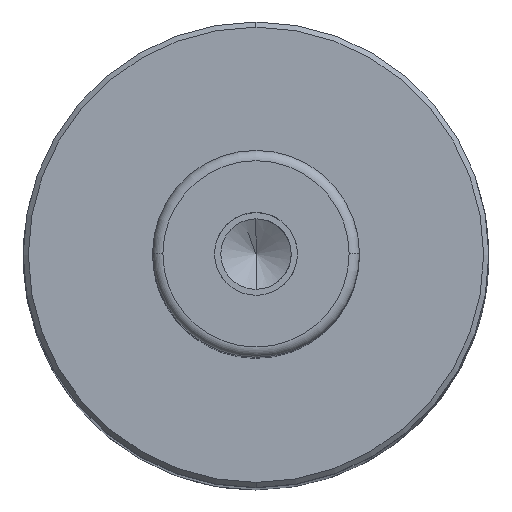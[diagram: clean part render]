
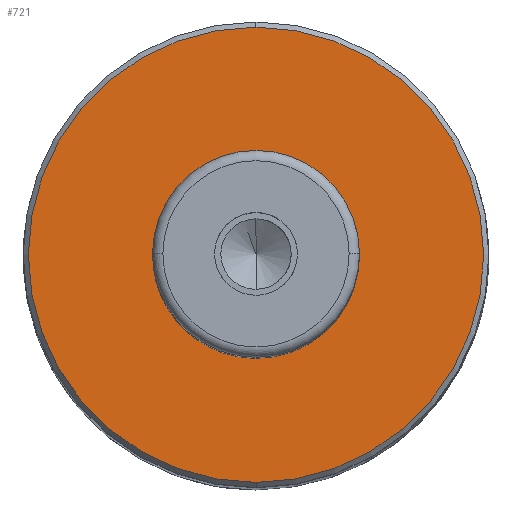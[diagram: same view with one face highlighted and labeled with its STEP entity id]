
A CAD part, top view. The second image highlights one B-rep face of the part: STEP entity #721.
In plain terms, the highlighted planar face has unit normal (0, 0, 1).
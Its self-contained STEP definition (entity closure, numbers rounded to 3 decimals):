
#400=CARTESIAN_POINT('Vertex',(0.,22.,133.)) ;
#407=CARTESIAN_POINT('Vertex',(0.,-22.,133.)) ;
#410=CARTESIAN_POINT('Axis2P3D Location',(0.,0.,133.)) ;
#427=CARTESIAN_POINT('Axis2P3D Location',(0.,0.,133.)) ;
#652=CARTESIAN_POINT('Axis2P3D Location',(0.,16.,133.)) ;
#662=CARTESIAN_POINT('Control Point',(0.,10.,133.)) ;
#663=CARTESIAN_POINT('Control Point',(-0.93,10.,133.)) ;
#664=CARTESIAN_POINT('Control Point',(-1.859,9.892,133.)) ;
#665=CARTESIAN_POINT('Control Point',(-2.772,9.676,133.)) ;
#666=CARTESIAN_POINT('Control Point',(-4.53,9.036,133.)) ;
#667=CARTESIAN_POINT('Control Point',(-6.095,8.01,133.)) ;
#668=CARTESIAN_POINT('Control Point',(-6.815,7.407,133.)) ;
#669=CARTESIAN_POINT('Control Point',(-8.1,6.047,133.)) ;
#670=CARTESIAN_POINT('Control Point',(-9.039,4.428,133.)) ;
#671=CARTESIAN_POINT('Control Point',(-9.412,3.567,133.)) ;
#672=CARTESIAN_POINT('Control Point',(-9.951,1.775,133.)) ;
#673=CARTESIAN_POINT('Control Point',(-10.065,-0.093,133.)) ;
#674=CARTESIAN_POINT('Control Point',(-10.012,-1.03,133.)) ;
#675=CARTESIAN_POINT('Control Point',(-9.691,-2.873,133.)) ;
#676=CARTESIAN_POINT('Control Point',(-8.955,-4.594,133.)) ;
#677=CARTESIAN_POINT('Control Point',(-8.489,-5.408,133.)) ;
#678=CARTESIAN_POINT('Control Point',(-7.375,-6.912,133.)) ;
#679=CARTESIAN_POINT('Control Point',(-5.946,-8.121,133.)) ;
#680=CARTESIAN_POINT('Control Point',(-5.165,-8.639,133.)) ;
#681=CARTESIAN_POINT('Control Point',(-3.696,-9.383,133.)) ;
#682=CARTESIAN_POINT('Control Point',(-2.111,-9.813,133.)) ;
#683=CARTESIAN_POINT('Control Point',(-1.412,-9.938,133.)) ;
#684=CARTESIAN_POINT('Control Point',(-0.706,-10.,133.)) ;
#685=CARTESIAN_POINT('Control Point',(0.,-10.,133.)) ;
#686=CARTESIAN_POINT('Vertex',(0.,10.,133.)) ;
#688=CARTESIAN_POINT('Vertex',(0.,-10.,133.)) ;
#692=CARTESIAN_POINT('Control Point',(0.,-10.,133.)) ;
#693=CARTESIAN_POINT('Control Point',(0.93,-10.,133.)) ;
#694=CARTESIAN_POINT('Control Point',(1.859,-9.892,133.)) ;
#695=CARTESIAN_POINT('Control Point',(2.772,-9.676,133.)) ;
#696=CARTESIAN_POINT('Control Point',(4.53,-9.036,133.)) ;
#697=CARTESIAN_POINT('Control Point',(6.095,-8.01,133.)) ;
#698=CARTESIAN_POINT('Control Point',(6.815,-7.407,133.)) ;
#699=CARTESIAN_POINT('Control Point',(8.1,-6.047,133.)) ;
#700=CARTESIAN_POINT('Control Point',(9.039,-4.428,133.)) ;
#701=CARTESIAN_POINT('Control Point',(9.412,-3.567,133.)) ;
#702=CARTESIAN_POINT('Control Point',(9.951,-1.775,133.)) ;
#703=CARTESIAN_POINT('Control Point',(10.065,0.093,133.)) ;
#704=CARTESIAN_POINT('Control Point',(10.012,1.03,133.)) ;
#705=CARTESIAN_POINT('Control Point',(9.691,2.873,133.)) ;
#706=CARTESIAN_POINT('Control Point',(8.955,4.594,133.)) ;
#707=CARTESIAN_POINT('Control Point',(8.489,5.408,133.)) ;
#708=CARTESIAN_POINT('Control Point',(7.375,6.912,133.)) ;
#709=CARTESIAN_POINT('Control Point',(5.946,8.121,133.)) ;
#710=CARTESIAN_POINT('Control Point',(5.165,8.639,133.)) ;
#711=CARTESIAN_POINT('Control Point',(3.696,9.383,133.)) ;
#712=CARTESIAN_POINT('Control Point',(2.111,9.813,133.)) ;
#713=CARTESIAN_POINT('Control Point',(1.412,9.938,133.)) ;
#714=CARTESIAN_POINT('Control Point',(0.706,10.,133.)) ;
#715=CARTESIAN_POINT('Control Point',(0.,10.,133.)) ;
#411=DIRECTION('Axis2P3D Direction',(0.,0.,-1.)) ;
#428=DIRECTION('Axis2P3D Direction',(0.,0.,-1.)) ;
#653=DIRECTION('Axis2P3D Direction',(0.,0.,1.)) ;
#654=DIRECTION('Axis2P3D XDirection',(0.,1.,0.)) ;
#412=AXIS2_PLACEMENT_3D('Circle Axis2P3D',#410,#411,$) ;
#429=AXIS2_PLACEMENT_3D('Circle Axis2P3D',#427,#428,$) ;
#655=AXIS2_PLACEMENT_3D('Plane Axis2P3D',#652,#653,#654) ;
#658=ORIENTED_EDGE('',*,*,#414,.T.) ;
#659=ORIENTED_EDGE('',*,*,#431,.T.) ;
#718=ORIENTED_EDGE('',*,*,#690,.F.) ;
#719=ORIENTED_EDGE('',*,*,#716,.F.) ;
#720=FACE_BOUND('',#717,.T.) ;
#721=ADVANCED_FACE('',(#660,#720),#656,.T.) ;
#661=B_SPLINE_CURVE_WITH_KNOTS('',5,(#662,#663,#664,#665,#666,#667,#668,#669,#670,#671,#672,#673,#674,#675,#676,#677,#678,#679,#680,#681,#682,#683,#684,#685),.UNSPECIFIED.,.F.,.U.,(6,3,3,3,3,3,3,6),(0.,6.573,13.145,19.718,26.29,32.863,39.436,44.428),.UNSPECIFIED.) ;
#691=B_SPLINE_CURVE_WITH_KNOTS('',5,(#692,#693,#694,#695,#696,#697,#698,#699,#700,#701,#702,#703,#704,#705,#706,#707,#708,#709,#710,#711,#712,#713,#714,#715),.UNSPECIFIED.,.F.,.U.,(6,3,3,3,3,3,3,6),(0.,6.573,13.145,19.718,26.29,32.863,39.436,44.428),.UNSPECIFIED.) ;
#413=CIRCLE('generated circle',#412,22.) ;
#430=CIRCLE('generated circle',#429,22.) ;
#414=EDGE_CURVE('',#401,#408,#413,.F.) ;
#431=EDGE_CURVE('',#408,#401,#430,.F.) ;
#690=EDGE_CURVE('',#687,#689,#661,.T.) ;
#716=EDGE_CURVE('',#689,#687,#691,.T.) ;
#657=EDGE_LOOP('',(#658,#659)) ;
#717=EDGE_LOOP('',(#718,#719)) ;
#660=FACE_OUTER_BOUND('',#657,.T.) ;
#656=PLANE('Plane',#655) ;
#401=VERTEX_POINT('',#400) ;
#408=VERTEX_POINT('',#407) ;
#687=VERTEX_POINT('',#686) ;
#689=VERTEX_POINT('',#688) ;
